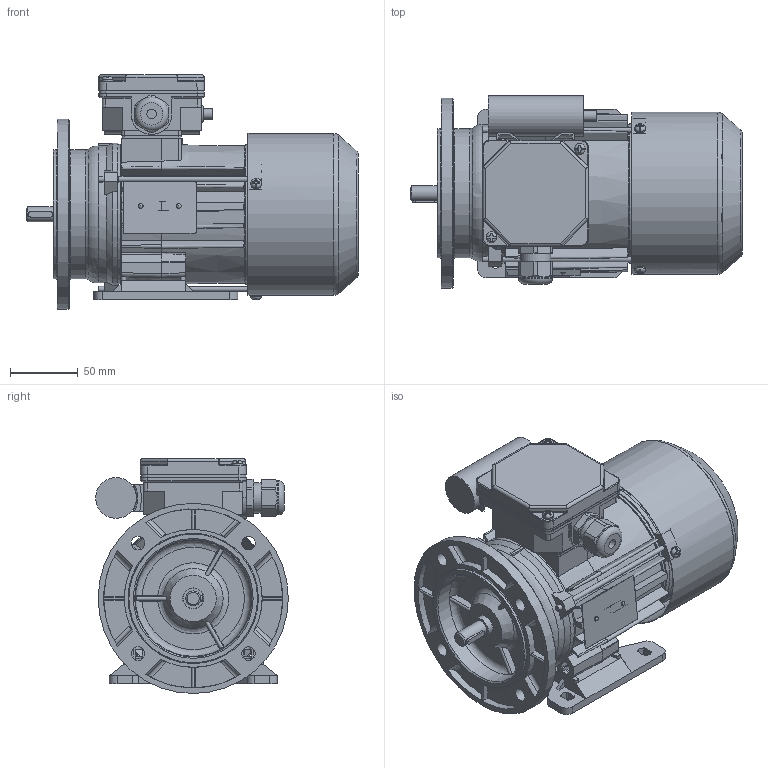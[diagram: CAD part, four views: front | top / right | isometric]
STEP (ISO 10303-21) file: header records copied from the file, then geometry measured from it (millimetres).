
FILE_DESCRIPTION(/* description */ ('Unknown'),/* implementation_level */ '2;1');
FILE_NAME(/* name */ '3SSIEL63-4B',/* time_stamp */ '2024-06-17T10:39:30+02:00',/* author */ ('Unknown'),/* organization */ ('Unknown'),/* preprocessor_version */ 'ST-DEVELOPER v16.7',/* originating_system */ 'Solid Edge',/* authorisation */ 'Unknown');
FILE_SCHEMA (('AUTOMOTIVE_DESIGN {1 0 10303 214 3 1 1}'));
Products named in the file (1): Czêœæ10
Bounding box: 244.47 x 141.82 x 173 mm (x, y, z)
Volume: 699758.3 mm3; surface area: 388938.4 mm2
Topology: 2 solids, 2 shells, 1979 faces, 5676 edges, 3706 vertices
Faces by surface type: plane 1049, cylinder 588, torus 118, cone 112, bspline 91, sphere 21
Full cylindrical faces by diameter (mm): 2 x1, 2.4 x2, 3 x1, 3.7 x7, 3.8 x1, 4 x8, 4.5 x5, 4.6 x1, 4.8 x2, 5 x2, 5.8 x4, 6.5 x1, 7 x4, 7.998 x1, 8 x6, 10 x4, 10.998 x1, 12.897 x1, 13.097 x1, 14.997 x2, 15.4 x2, 18.996 x2, 19.496 x1, 19.996 x1, 20.096 x1, 21.516 x4, 22.3 x1, 25 x1, 28 x2, 28.48 x4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
Entity records: 80993 total; most frequent: CARTESIAN_POINT 17268, ORIENTED_EDGE 10666, DIRECTION 9912, EDGE_CURVE 5333, AXIS2_PLACEMENT_3D 3602, VERTEX_POINT 3577, LINE 2708, VECTOR 2708
